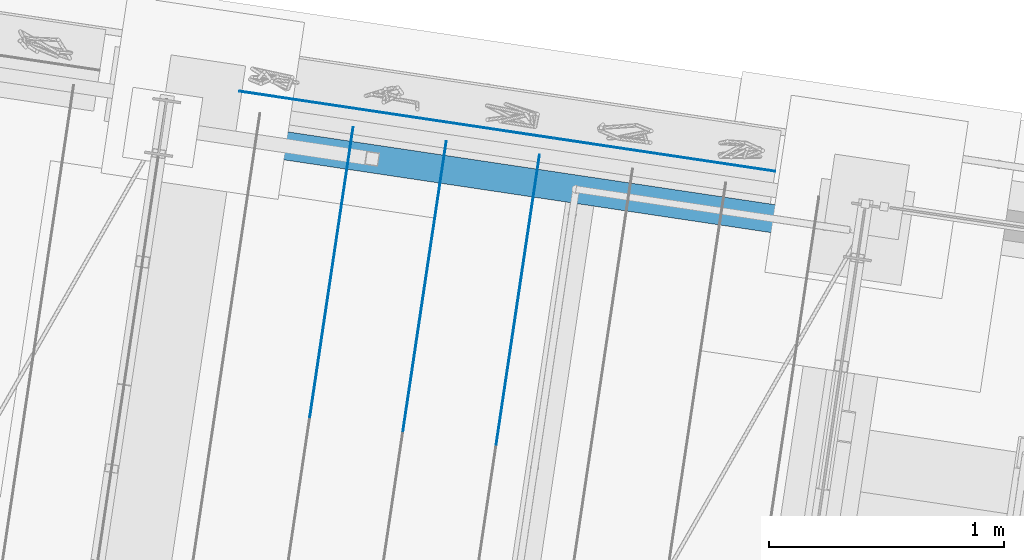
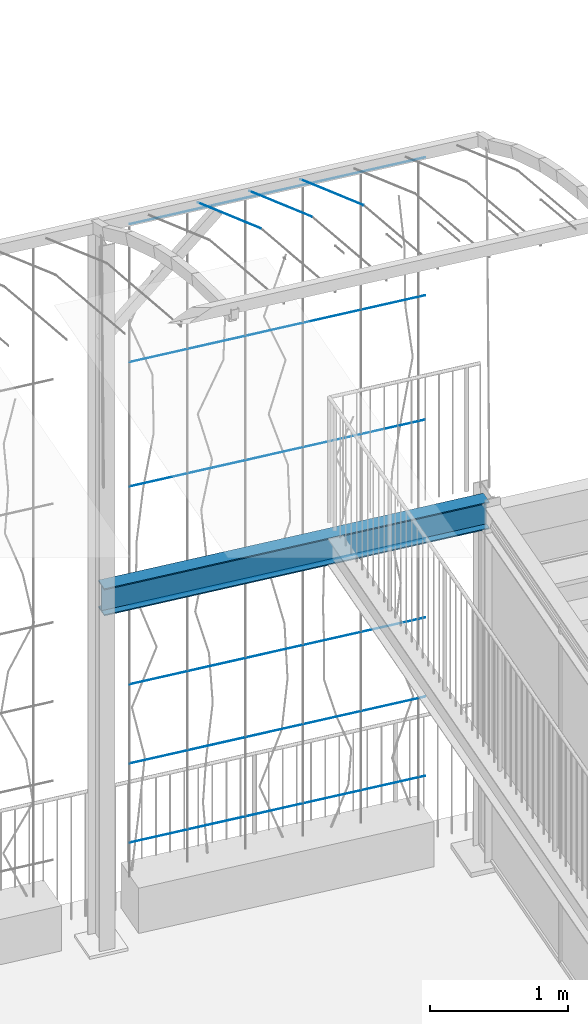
# One storey, part 40 of 142: 10 members, 1 beam, 2 elements without a shape of their own.
"""IFC4 building model written with IfcOpenShell, lengths in metres."""

from ifc_helpers import new_model, si_unit, direction, frame, origin_with_axes, place, context, subcontext, project, spatial, circle, i_section, extrude, material, material_profile, profile_set, profile_usage, type_object, element, aggregate, save


model = new_model("IFC4")

# Units and contexts
model_context = context("Model", 3, precision=1e-05, world=origin_with_axes(), true_north=direction((0.0, 1.0)))
body_context = subcontext(model_context, "Body", "Model", "MODEL_VIEW")
ifc_project = project(units=[si_unit("AREAUNIT", "SQUARE_METRE"), si_unit("VOLUMEUNIT", "CUBIC_METRE"), si_unit("LENGTHUNIT", "METRE")], contexts=[model_context])

# Site, building, storey
site_placement = place(None, origin_with_axes())
site = spatial("IfcSite", under=ifc_project, at=site_placement, Name="Lares · Rua das Mercês · artigo 4771")
building_placement = place(site_placement, frame((15.0, 9.7, 14.65), z_axis=(0.0, 0.0, 1.0), x_axis=(0.989015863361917, -0.147809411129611, 0.0)))
building = spatial("IfcBuilding", under=site, at=building_placement, Name="Casa Sobreposta")
storey_placement = place(building_placement, origin_with_axes())
storey = spatial("IfcBuildingStorey", under=building, at=storey_placement, Name="00 · Habitação e estacionamento", Elevation=14.65)

# Assembly, beam, members
assembly_1_placement = place(storey_placement, origin_with_axes())
assembly_1 = element("IfcElementAssembly", 1, at=assembly_1_placement, inside=storey, Name="Pérgola · prolongamento da estufa 6 m", ObjectType="PERGOLA_GREENHOUSE_EXTENSION", PredefinedType="USERDEFINED")
ifc_material_1 = material(Name="Aço pintado / Stahl lackiert", Category="steel")
ifc_material_profile_1 = material_profile(ifc_material_1, i_section(OverallWidth=0.12, OverallDepth=0.24, WebThickness=0.0062, FlangeThickness=0.0098))
ifc_profile_set_1 = profile_set([ifc_material_profile_1], Name="IPE240")
ifc_profile_usage_1 = profile_usage(ifc_profile_set_1)
beam_type = type_object("IfcBeamType", Name="IPE240 / steel", PredefinedType="NOTDEFINED", material=ifc_profile_set_1)
beam_placement = place(assembly_1_placement, frame((-3.0, 6.28, 3.02), z_axis=(1.0, 0.0, 0.0), x_axis=(0.0, -1.0, 0.0)))
beam = element("IfcBeam", 2, at=beam_placement, type_object=beam_type, material=ifc_profile_usage_1, Name="Varanda · viga de bordo", context=body_context, shape_type="SweptSolid", body=[
    extrude(i_section(OverallWidth=0.12, OverallDepth=0.24, WebThickness=0.0062, FlangeThickness=0.0098), origin_with_axes(), (0.0, 0.0, 1.0), 3.0),
])
ifc_material_2 = material(Name="Aço galvanizado / Stahl verzinkt", Category="steel")
ifc_material_profile_2 = material_profile(ifc_material_2, circle(Radius=0.002))
ifc_profile_set_2 = profile_set([ifc_material_profile_2], Name="D0.004")
ifc_profile_usage_2 = profile_usage(ifc_profile_set_2)
member_type = type_object("IfcMemberType", Name="D0.004 / galvanized", PredefinedType="NOTDEFINED", material=ifc_profile_set_2)
member_1_placement = place(assembly_1_placement, frame((-2.2, 5.15650506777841, 6.8157371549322), z_axis=(0.0, 0.905864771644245, -0.423567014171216), x_axis=(1.0, 0.0, 0.0)))
member_1 = element("IfcMember", 3, at=member_1_placement, type_object=member_type, material=ifc_profile_usage_2, Name="Pérgola · fio para trepadeiras", context=body_context, shape_type="SweptSolid", body=[
    extrude(circle(Radius=0.002), origin_with_axes(), (0.0, 0.0, 1.0), 1.3727158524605),
])
ifc_profile_usage_3 = profile_usage(ifc_profile_set_2)
member_2_placement = place(assembly_1_placement, frame((-1.8, 5.15650506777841, 6.8157371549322), z_axis=(0.0, 0.905864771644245, -0.423567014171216), x_axis=(1.0, 0.0, 0.0)))
member_2 = element("IfcMember", 4, at=member_2_placement, type_object=member_type, material=ifc_profile_usage_3, Name="Pérgola · fio para trepadeiras", context=body_context, shape_type="SweptSolid", body=[
    extrude(circle(Radius=0.002), origin_with_axes(), (0.0, 0.0, 1.0), 1.3727158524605),
])
ifc_profile_usage_4 = profile_usage(ifc_profile_set_2)
member_3_placement = place(assembly_1_placement, frame((-1.4, 5.15650506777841, 6.8157371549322), z_axis=(0.0, 0.905864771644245, -0.423567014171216), x_axis=(1.0, 0.0, 0.0)))
member_3 = element("IfcMember", 5, at=member_3_placement, type_object=member_type, material=ifc_profile_usage_4, Name="Pérgola · fio para trepadeiras", context=body_context, shape_type="SweptSolid", body=[
    extrude(circle(Radius=0.002), origin_with_axes(), (0.0, 0.0, 1.0), 1.3727158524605),
])
aggregate(assembly_1, [member_1, member_2, member_3, beam])

# Assembly, members
assembly_2_placement = place(storey_placement, origin_with_axes())
assembly_2 = element("IfcElementAssembly", 6, at=assembly_2_placement, inside=storey, Name="Fachada sul e pátio · estrutura e trepadeiras", ObjectType="LIVING_SHADE_TRELLIS", PredefinedType="USERDEFINED")
ifc_profile_usage_5 = profile_usage(ifc_profile_set_2)
member_4_placement = place(assembly_2_placement, frame((-2.7, 6.48, 0.65), z_axis=(1.0, 0.0, 0.0), x_axis=(0.0, -1.0, 0.0)))
member_4 = element("IfcMember", 7, at=member_4_placement, type_object=member_type, material=ifc_profile_usage_5, Name="Trepadeiras · fio horizontal", context=body_context, shape_type="SweptSolid", body=[
    extrude(circle(Radius=0.002), origin_with_axes(), (0.0, 0.0, 1.0), 2.3),
])
ifc_profile_usage_6 = profile_usage(ifc_profile_set_2)
member_5_placement = place(assembly_2_placement, frame((-2.7, 6.48, 1.35), z_axis=(1.0, 0.0, 0.0), x_axis=(0.0, -1.0, 0.0)))
member_5 = element("IfcMember", 8, at=member_5_placement, type_object=member_type, material=ifc_profile_usage_6, Name="Trepadeiras · fio horizontal", context=body_context, shape_type="SweptSolid", body=[
    extrude(circle(Radius=0.002), origin_with_axes(), (0.0, 0.0, 1.0), 2.3),
])
ifc_profile_usage_7 = profile_usage(ifc_profile_set_2)
member_6_placement = place(assembly_2_placement, frame((-2.7, 6.48, 2.05), z_axis=(1.0, 0.0, 0.0), x_axis=(0.0, -1.0, 0.0)))
member_6 = element("IfcMember", 9, at=member_6_placement, type_object=member_type, material=ifc_profile_usage_7, Name="Trepadeiras · fio horizontal", context=body_context, shape_type="SweptSolid", body=[
    extrude(circle(Radius=0.002), origin_with_axes(), (0.0, 0.0, 1.0), 2.3),
])
ifc_profile_usage_8 = profile_usage(ifc_profile_set_2)
member_7_placement = place(assembly_2_placement, frame((-2.7, 6.48, 2.75), z_axis=(1.0, 0.0, 0.0), x_axis=(0.0, -1.0, 0.0)))
member_7 = element("IfcMember", 10, at=member_7_placement, type_object=member_type, material=ifc_profile_usage_8, Name="Trepadeiras · fio horizontal", context=body_context, shape_type="SweptSolid", body=[
    extrude(circle(Radius=0.002), origin_with_axes(), (0.0, 0.0, 1.0), 2.3),
])
ifc_profile_usage_9 = profile_usage(ifc_profile_set_2)
member_8_placement = place(assembly_2_placement, frame((-2.7, 6.48, 3.8), z_axis=(1.0, 0.0, 0.0), x_axis=(0.0, -1.0, 0.0)))
member_8 = element("IfcMember", 11, at=member_8_placement, type_object=member_type, material=ifc_profile_usage_9, Name="Trepadeiras · fio horizontal", context=body_context, shape_type="SweptSolid", body=[
    extrude(circle(Radius=0.002), origin_with_axes(), (0.0, 0.0, 1.0), 2.3),
])
ifc_profile_usage_10 = profile_usage(ifc_profile_set_2)
member_9_placement = place(assembly_2_placement, frame((-2.7, 6.48, 4.9), z_axis=(1.0, 0.0, 0.0), x_axis=(0.0, -1.0, 0.0)))
member_9 = element("IfcMember", 12, at=member_9_placement, type_object=member_type, material=ifc_profile_usage_10, Name="Trepadeiras · fio horizontal", context=body_context, shape_type="SweptSolid", body=[
    extrude(circle(Radius=0.002), origin_with_axes(), (0.0, 0.0, 1.0), 2.3),
])
ifc_profile_usage_11 = profile_usage(ifc_profile_set_2)
member_10_placement = place(assembly_2_placement, frame((-2.7, 6.48, 6.12), z_axis=(1.0, 0.0, 0.0), x_axis=(0.0, -1.0, 0.0)))
member_10 = element("IfcMember", 13, at=member_10_placement, type_object=member_type, material=ifc_profile_usage_11, Name="Trepadeiras · fio horizontal", context=body_context, shape_type="SweptSolid", body=[
    extrude(circle(Radius=0.002), origin_with_axes(), (0.0, 0.0, 1.0), 2.3),
])
aggregate(assembly_2, [member_4, member_5, member_6, member_7, member_8, member_9, member_10])

save(model, "model.ifc")
